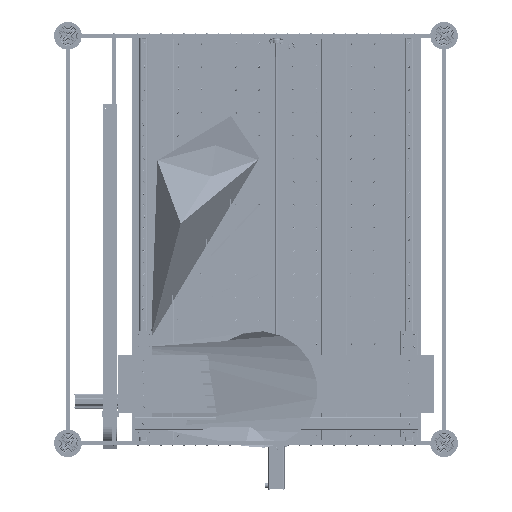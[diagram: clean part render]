
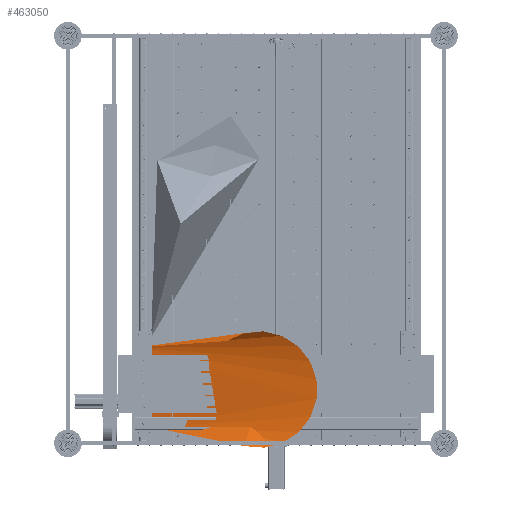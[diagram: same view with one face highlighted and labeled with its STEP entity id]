
A CAD part, front view. The second image highlights one B-rep face of the part: STEP entity #463050.
In plain terms, the highlighted conical face has half-angle 59 degrees and reference radius 2.887 mm.
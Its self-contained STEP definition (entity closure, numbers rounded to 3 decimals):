
#1499 = EDGE_CURVE ( 'NONE', #176906, #503629, #465980, .T. ) ;
#9669 = DIRECTION ( 'NONE',  ( 0., -1., 0. ) ) ;
#11499 = CARTESIAN_POINT ( 'NONE',  ( 13., 94.38, -650. ) ) ;
#14986 = CARTESIAN_POINT ( 'NONE',  ( 10.484, 94.59, -650.401 ) ) ;
#21206 = CARTESIAN_POINT ( 'NONE',  ( 11.151, 94.38, -652.217 ) ) ;
#29393 = CARTESIAN_POINT ( 'NONE',  ( 14.929, 94.45, -648.001 ) ) ;
#52515 = VERTEX_POINT ( 'NONE', #78413 ) ;
#56762 = CARTESIAN_POINT ( 'NONE',  ( 10.236, 94.45, -649.726 ) ) ;
#58612 = CARTESIAN_POINT ( 'NONE',  ( 10.738, 94.612, -651.091 ) ) ;
#63015 = CARTESIAN_POINT ( 'NONE',  ( 13.996, 94.38, -652.709 ) ) ;
#64716 = VERTEX_POINT ( 'NONE', #237847 ) ;
#69854 = CARTESIAN_POINT ( 'NONE',  ( -520.1, 110.96, -468. ) ) ;
#78413 = CARTESIAN_POINT ( 'NONE',  ( 11.151, 94.38, -652.217 ) ) ;
#93800 = VERTEX_POINT ( 'NONE', #529035 ) ;
#96918 = DIRECTION ( 'NONE',  ( 0.345, 0., -0.939 ) ) ;
#98860 = DIRECTION ( 'NONE',  ( -1., 0., 0. ) ) ;
#102249 = CARTESIAN_POINT ( 'NONE',  ( 10.988, 94.51, -651.772 ) ) ;
#110807 = CARTESIAN_POINT ( 'NONE',  ( 14.849, 94.38, -647.783 ) ) ;
#112600 = CONICAL_SURFACE ( 'NONE', #359739, 2.887, 1.03 ) ;
#114906 = FACE_OUTER_BOUND ( 'NONE', #486914, .T. ) ;
#116465 = CARTESIAN_POINT ( 'NONE',  ( -520.1, 110.96, -468. ) ) ;
#116563 = CARTESIAN_POINT ( 'NONE',  ( 15.01, 94.508, -648.223 ) ) ;
#120810 = CARTESIAN_POINT ( 'NONE',  ( 12.004, 94.38, -647.291 ) ) ;
#123944 = CARTESIAN_POINT ( 'NONE',  ( 12.004, 94.38, -647.291 ) ) ;
#145958 = CARTESIAN_POINT ( 'NONE',  ( 11.151, 94.38, -652.217 ) ) ;
#160301 = CARTESIAN_POINT ( 'NONE',  ( 15.262, 94.612, -648.909 ) ) ;
#164589 = CARTESIAN_POINT ( 'NONE',  ( 13.907, 94.59, -647.62 ) ) ;
#169021 = B_SPLINE_CURVE_WITH_KNOTS ( 'NONE', 3,
 ( #359906, #56762, #274847, #14986, #318295, #58612, #361780, #102249, #405451, #145958 ),
 .UNSPECIFIED., .F., .F.,
 ( 4, 2, 2, 2, 4 ),
 ( 0.008, 0.008, 0.009, 0.01, 0.011 ),
 .UNSPECIFIED. ) ;
#176906 = VERTEX_POINT ( 'NONE', #123944 ) ;
#193949 = CARTESIAN_POINT ( 'NONE',  ( 13.061, 94.612, -652.548 ) ) ;
#203940 = CARTESIAN_POINT ( 'NONE',  ( 15.514, 94.591, -649.594 ) ) ;
#208174 = CARTESIAN_POINT ( 'NONE',  ( 14.616, 94.451, -647.743 ) ) ;
#208448 = VERTEX_POINT ( 'NONE', #277219 ) ;
#237515 = CARTESIAN_POINT ( 'NONE',  ( 12.093, 94.59, -652.38 ) ) ;
#237847 = CARTESIAN_POINT ( 'NONE',  ( -453.9, 92.9, -812.95 ) ) ;
#240556 = CARTESIAN_POINT ( 'NONE',  ( -520.1, 94.46, -468. ) ) ;
#247524 = CARTESIAN_POINT ( 'NONE',  ( 15.764, 94.45, -650.273 ) ) ;
#249878 = CARTESIAN_POINT ( 'NONE',  ( 12.939, 94.612, -647.452 ) ) ;
#274847 = CARTESIAN_POINT ( 'NONE',  ( 10.317, 94.508, -649.948 ) ) ;
#277183 = VECTOR ( 'NONE', #98860, 1000. ) ;
#277219 = CARTESIAN_POINT ( 'NONE',  ( -454.5, 92.9, -812.95 ) ) ;
#278800 = LINE ( 'NONE', #358378, #277183 ) ;
#281068 = CARTESIAN_POINT ( 'NONE',  ( 11.384, 94.451, -652.257 ) ) ;
#286529 = ORIENTED_EDGE ( 'NONE', *, *, #1499, .F. ) ;
#289283 = VERTEX_POINT ( 'NONE', #116465 ) ;
#296176 = VERTEX_POINT ( 'NONE', #240556 ) ;
#299464 = B_SPLINE_CURVE_WITH_KNOTS ( 'NONE', 3,
 ( #63015, #366136, #193949, #497101, #237515, #540655, #281068, #21206 ),
 .UNSPECIFIED., .F., .F.,
 ( 4, 2, 2, 4 ),
 ( 0., 0.001, 0.002, 0.003 ),
 .UNSPECIFIED. ) ;
#318295 = CARTESIAN_POINT ( 'NONE',  ( 10.569, 94.612, -650.634 ) ) ;
#329459 = DIRECTION ( 'NONE',  ( 0., -1., 0. ) ) ;
#332549 = CARTESIAN_POINT ( 'NONE',  ( 14.849, 94.38, -647.783 ) ) ;
#333031 = EDGE_CURVE ( 'NONE', #503629, #552373, #369371, .T. ) ;
#333689 = EDGE_CURVE ( 'NONE', #426937, #52515, #299464, .T. ) ;
#336778 = CARTESIAN_POINT ( 'NONE',  ( 12.468, 94.521, -647.371 ) ) ;
#343265 = ORIENTED_EDGE ( 'NONE', *, *, #532114, .F. ) ;
#355621 = ORIENTED_EDGE ( 'NONE', *, *, #378667, .T. ) ;
#358378 = CARTESIAN_POINT ( 'NONE',  ( -453.9, 92.9, -812.95 ) ) ;
#359739 = AXIS2_PLACEMENT_3D ( 'NONE', #11499, #9669, #96918 ) ;
#359906 = CARTESIAN_POINT ( 'NONE',  ( 10.156, 94.38, -649.508 ) ) ;
#361780 = CARTESIAN_POINT ( 'NONE',  ( 10.821, 94.591, -651.319 ) ) ;
#365218 = ORIENTED_EDGE ( 'NONE', *, *, #443528, .T. ) ;
#366136 = CARTESIAN_POINT ( 'NONE',  ( 13.532, 94.521, -652.629 ) ) ;
#369371 = B_SPLINE_CURVE_WITH_KNOTS ( 'NONE', 3,
 ( #332549, #29393, #116563, #419884, #160301, #463489, #203940, #507086, #247524, #550622 ),
 .UNSPECIFIED., .F., .F.,
 ( 4, 2, 2, 2, 4 ),
 ( 0.008, 0.008, 0.009, 0.01, 0.011 ),
 .UNSPECIFIED. ) ;
#378667 = ORIENTED_EDGE ( 'NONE', *, *, #410843, .F. ) ;
#380486 = ORIENTED_EDGE ( 'NONE', *, *, #333689, .F. ) ;
#405451 = CARTESIAN_POINT ( 'NONE',  ( 11.071, 94.45, -651.998 ) ) ;
#410843 = EDGE_CURVE ( 'NONE', #64716, #208448, #278800, .T. ) ;
#419884 = CARTESIAN_POINT ( 'NONE',  ( 15.177, 94.59, -648.676 ) ) ;
#424140 = CARTESIAN_POINT ( 'NONE',  ( 13.665, 94.613, -647.578 ) ) ;
#425762 = ORIENTED_EDGE ( 'NONE', *, *, #343265, .T. ) ;
#426937 = VERTEX_POINT ( 'NONE', #494799 ) ;
#443528 = EDGE_CURVE ( 'NONE', #93800, #52515, #169021, .T. ) ;
#446982 = ORIENTED_EDGE ( 'NONE', *, *, #333031, .F. ) ;
#463050 = ADVANCED_FACE ( 'NONE', ( #114906 ), #112600, .F. ) ;
#463489 = CARTESIAN_POINT ( 'NONE',  ( 15.431, 94.612, -649.366 ) ) ;
#465980 = B_SPLINE_CURVE_WITH_KNOTS ( 'NONE', 3,
 ( #120810, #336778, #249878, #424140, #164589, #467764, #208174, #511302 ),
 .UNSPECIFIED., .F., .F.,
 ( 4, 2, 2, 4 ),
 ( 0., 0.001, 0.002, 0.003 ),
 .UNSPECIFIED. ) ;
#467764 = CARTESIAN_POINT ( 'NONE',  ( 14.382, 94.509, -647.702 ) ) ;
#486914 = EDGE_LOOP ( 'NONE', ( #286529, #355621, #365218, #380486, #425762, #446982 ) ) ;
#494799 = CARTESIAN_POINT ( 'NONE',  ( 13.996, 94.38, -652.709 ) ) ;
#497101 = CARTESIAN_POINT ( 'NONE',  ( 12.335, 94.613, -652.422 ) ) ;
#503629 = VERTEX_POINT ( 'NONE', #110807 ) ;
#507086 = CARTESIAN_POINT ( 'NONE',  ( 15.681, 94.51, -650.047 ) ) ;
#511302 = CARTESIAN_POINT ( 'NONE',  ( 14.849, 94.38, -647.783 ) ) ;
#529035 = CARTESIAN_POINT ( 'NONE',  ( 10.156, 94.38, -649.508 ) ) ;
#532114 = EDGE_CURVE ( 'NONE', #289283, #296176, #536345, .T. ) ;
#535676 = VECTOR ( 'NONE', #329459, 1000. ) ;
#536345 = LINE ( 'NONE', #69854, #535676 ) ;
#539483 = CARTESIAN_POINT ( 'NONE',  ( 15.844, 94.38, -650.492 ) ) ;
#540655 = CARTESIAN_POINT ( 'NONE',  ( 11.618, 94.509, -652.298 ) ) ;
#550622 = CARTESIAN_POINT ( 'NONE',  ( 15.844, 94.38, -650.492 ) ) ;
#552373 = VERTEX_POINT ( 'NONE', #539483 ) ;
